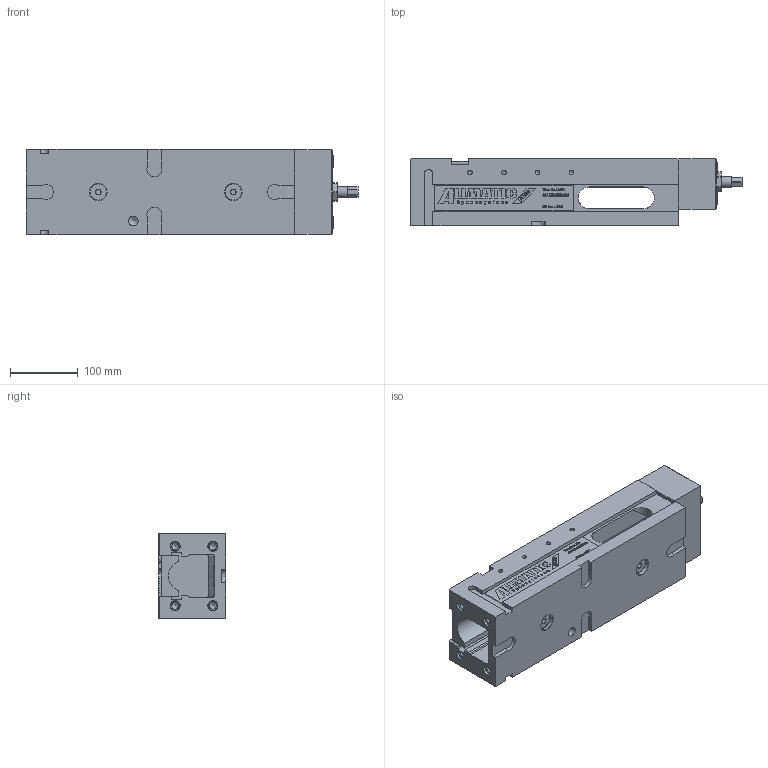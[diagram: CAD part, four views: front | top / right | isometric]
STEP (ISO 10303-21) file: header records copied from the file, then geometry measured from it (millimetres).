
FILE_DESCRIPTION (( 'STEP AP214' ), '1' );
FILE_NAME ('6921838000866.STEP', '2020-10-05T10:52:48', ( '' ), ( '' ), 'SwSTEP 2.0', 'SolidWorks 2018', '' );
FILE_SCHEMA (( 'AUTOMOTIVE_DESIGN' ));
Length unit declared in the file: millimetre
Products named in the file (1): 6921838000866
Bounding box: 491.7 x 100 x 126 mm (x, y, z)
Volume: 3561318.7 mm3; surface area: 383284 mm2
Topology: 1 solids, 1 shells, 2165 faces, 5870 edges, 3893 vertices
Faces by surface type: plane 1572, bspline 416, cylinder 137, cone 40
Full cylindrical faces by diameter (mm): 6.8 x9, 8.5 x2, 10.2 x16, 12 x4, 14 x5, 15.8 x1, 18 x4, 24 x2, 25 x2
Entity records: 112578 total; most frequent: CARTESIAN_POINT 39436, ORIENTED_EDGE 11494, DIRECTION 8654, EDGE_CURVE 5747, LINE 4610, VECTOR 4610, VERTEX_POINT 3855, EDGE_LOOP 2452
